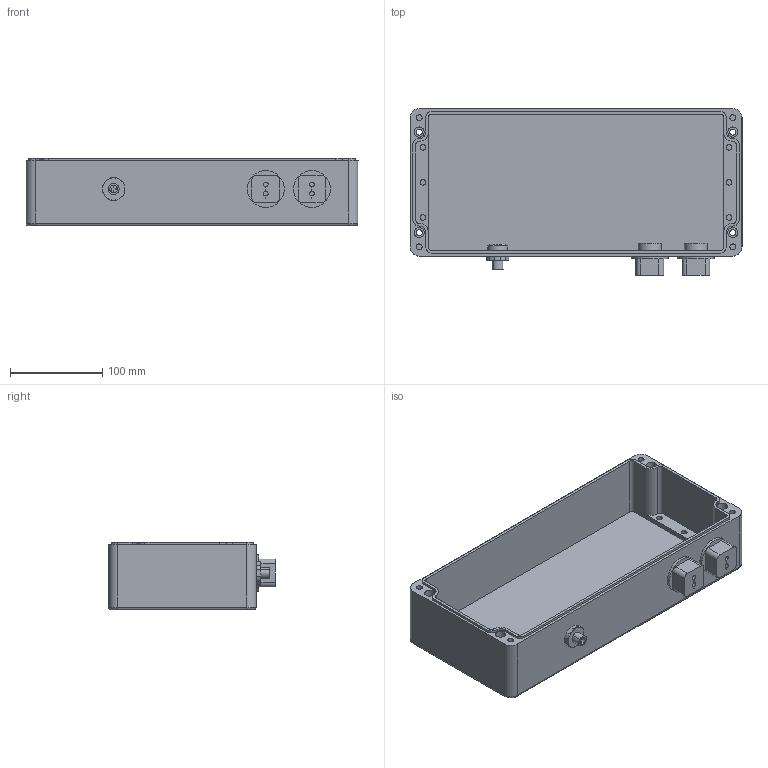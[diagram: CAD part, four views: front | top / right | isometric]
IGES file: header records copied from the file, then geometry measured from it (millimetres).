
Start section:  PTC IGES file: cd_ni_9921_bottom_enclosure.igs
Global section: file name: cd_ni_9921_bottom_enclosure.igs; native system: Pro/ENGINEER by Parametric Technology Corporation; preprocessor: 2006300; author: scarrasc; organization: Unknown; date: 20090715.162807; units: inch
Bounding box: 360 x 181 x 73.5 mm (x, y, z)
Surface area: 280470.5 mm2 (no closed solid volume)
Topology: 0 solids, 0 shells, 233 faces, 1146 edges, 1146 vertices
Faces by surface type: revolution 147, bspline 86
